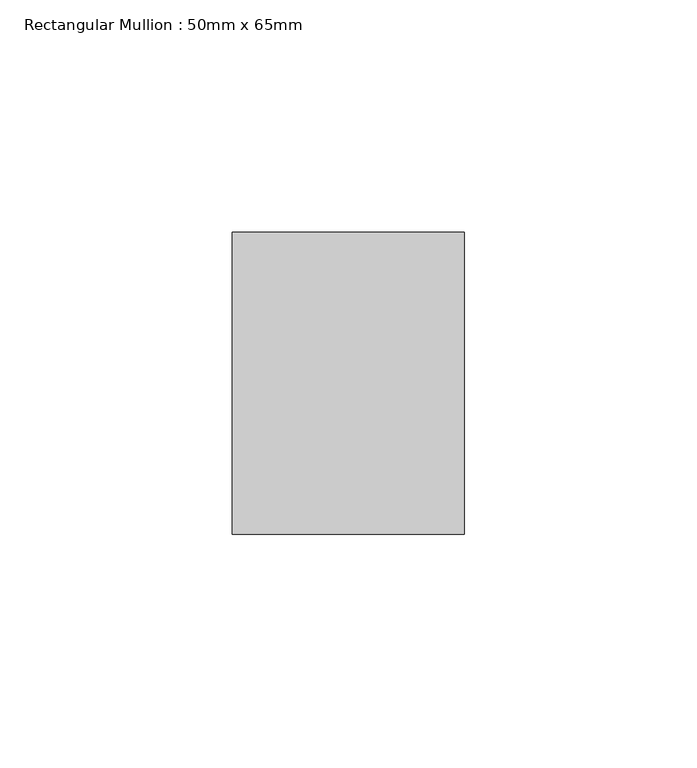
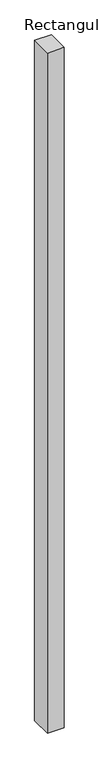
"""IFC4 building model written with IfcOpenShell, lengths in millimetres: member geometry, Rectangular Mullion : 50mm x 65mm."""

from ifc_helpers import new_model, si_unit, frame, origin, place, context, project, spatial, polyline, outline, extrude, source, transform, mapped, element, save


def rectangular_mullion_50mm_x_65mm_98092e04(model_context):
    return source(origin(), model_context, "Body", "SweptSolid", [
        extrude(outline(polyline([(0.0, 32.5), (0.0, -32.5), (-50.0, -32.5), (-50.0, 32.5), (0.0, 32.5)])), frame((0.0, 0.0, -2137.5000002), z_axis=(0.0, 0.0, 1.0), x_axis=(1.0, 0.0, 0.0)), (0.0, 0.0, 1.0), 2137.5000002),
    ])


if __name__ == "__main__":
    model = new_model("IFC4")
    model_context = context("Model", 3, world=origin())
    ifc_project = project(units=[si_unit("LENGTHUNIT", "METRE", prefix="MILLI")], contexts=[model_context])
    site = spatial("IfcSite", under=ifc_project)
    building = spatial("IfcBuilding", under=site)
    placement = place(None, origin())
    rectangular_mullion_50mm_x_65mm_shape = rectangular_mullion_50mm_x_65mm_98092e04(model_context)
    element("IfcMember", 1, ObjectType="Rectangular Mullion : 50mm x 65mm", at=placement, inside=building, context=model_context, shape_type="MappedRepresentation", body=[
        mapped(rectangular_mullion_50mm_x_65mm_shape, transform((0.0, 0.0, 0.0), x_axis=(1.0, 0.0, 0.0), y_axis=(0.0, 1.0, 0.0), z_axis=(0.0, 0.0, 1.0))),
    ])
    save(model, "model.ifc")
